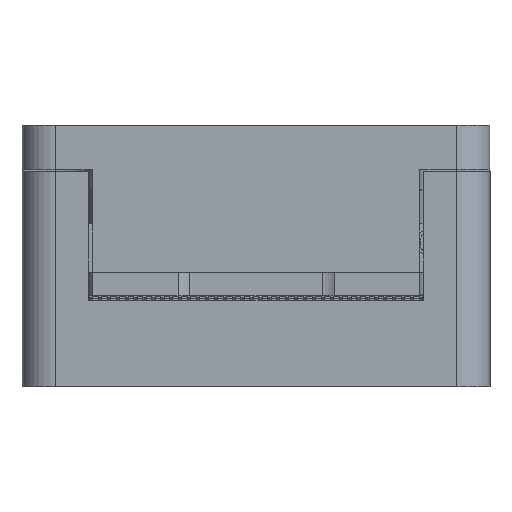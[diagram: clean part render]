
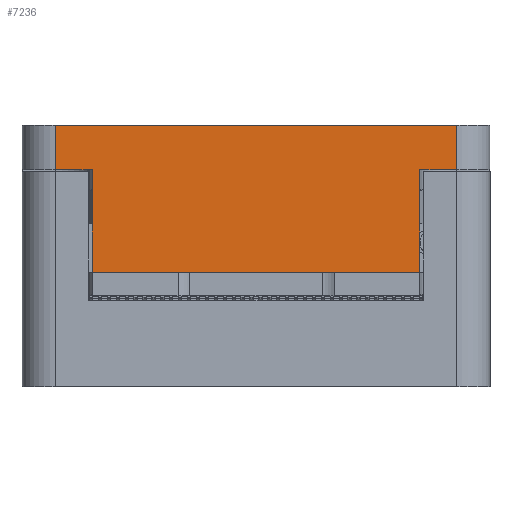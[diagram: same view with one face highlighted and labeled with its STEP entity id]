
A CAD part, front view. The second image highlights one B-rep face of the part: STEP entity #7236.
In plain terms, the highlighted planar face has unit normal (0, -1, 0).
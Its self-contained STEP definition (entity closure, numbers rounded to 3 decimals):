
#2671 = DIRECTION ( 'NONE',  ( 0., 0., -1. ) ) ;
#5273 = DIRECTION ( 'NONE',  ( -1., 0., 0. ) ) ;
#5996 = LINE ( 'NONE', #110215, #29889 ) ;
#7236 = ADVANCED_FACE ( 'NONE', ( #20811 ), #111887, .F. ) ;
#7982 = VERTEX_POINT ( 'NONE', #60119 ) ;
#12662 = ORIENTED_EDGE ( 'NONE', *, *, #56270, .T. ) ;
#13707 = EDGE_CURVE ( 'NONE', #67281, #55425, #63834, .T. ) ;
#14525 = EDGE_CURVE ( 'NONE', #7982, #76871, #103962, .T. ) ;
#16411 = LINE ( 'NONE', #85100, #84750 ) ;
#19650 = LINE ( 'NONE', #56725, #90730 ) ;
#20071 = DIRECTION ( 'NONE',  ( -1., 0., 0. ) ) ;
#20811 = FACE_OUTER_BOUND ( 'NONE', #78731, .T. ) ;
#27631 = CARTESIAN_POINT ( 'NONE',  ( 7.35, -10.5, 3.812 ) ) ;
#29200 = ORIENTED_EDGE ( 'NONE', *, *, #14525, .T. ) ;
#29243 = CARTESIAN_POINT ( 'NONE',  ( -9., -10.5, -0.945 ) ) ;
#29889 = VECTOR ( 'NONE', #83301, 1000. ) ;
#31705 = DIRECTION ( 'NONE',  ( 1., 0., 0. ) ) ;
#34878 = LINE ( 'NONE', #56663, #82276 ) ;
#37228 = ORIENTED_EDGE ( 'NONE', *, *, #96577, .F. ) ;
#38725 = VERTEX_POINT ( 'NONE', #29243 ) ;
#39930 = CARTESIAN_POINT ( 'NONE',  ( 9., -10.5, 1.055 ) ) ;
#40881 = VECTOR ( 'NONE', #114864, 1000. ) ;
#44204 = VERTEX_POINT ( 'NONE', #99631 ) ;
#55425 = VERTEX_POINT ( 'NONE', #103370 ) ;
#56270 = EDGE_CURVE ( 'NONE', #87247, #38725, #19650, .T. ) ;
#56602 = VECTOR ( 'NONE', #84331, 1000. ) ;
#56663 = CARTESIAN_POINT ( 'NONE',  ( -7.35, -10.5, 3.812 ) ) ;
#56725 = CARTESIAN_POINT ( 'NONE',  ( -9., -10.5, 1.055 ) ) ;
#58107 = LINE ( 'NONE', #91342, #102686 ) ;
#58866 = DIRECTION ( 'NONE',  ( 0., 1., 0. ) ) ;
#59967 = ORIENTED_EDGE ( 'NONE', *, *, #83093, .F. ) ;
#60119 = CARTESIAN_POINT ( 'NONE',  ( 9., -10.5, -0.945 ) ) ;
#63291 = CARTESIAN_POINT ( 'NONE',  ( -7.35, -10.5, -5.545 ) ) ;
#63834 = LINE ( 'NONE', #27631, #81917 ) ;
#65648 = DIRECTION ( 'NONE',  ( 0., 0., -1. ) ) ;
#67281 = VERTEX_POINT ( 'NONE', #82000 ) ;
#70493 = CARTESIAN_POINT ( 'NONE',  ( 9., -10.5, 1.055 ) ) ;
#76871 = VERTEX_POINT ( 'NONE', #70493 ) ;
#76957 = ORIENTED_EDGE ( 'NONE', *, *, #81981, .T. ) ;
#78731 = EDGE_LOOP ( 'NONE', ( #89198, #37228, #29200, #59967, #12662, #99222, #89738, #76957 ) ) ;
#81025 = DIRECTION ( 'NONE',  ( 0., 0., -1. ) ) ;
#81917 = VECTOR ( 'NONE', #81025, 1000. ) ;
#81981 = EDGE_CURVE ( 'NONE', #93470, #55425, #16411, .T. ) ;
#82000 = CARTESIAN_POINT ( 'NONE',  ( 7.35, -10.5, -0.945 ) ) ;
#82276 = VECTOR ( 'NONE', #2671, 1000. ) ;
#83093 = EDGE_CURVE ( 'NONE', #87247, #76871, #5996, .T. ) ;
#83301 = DIRECTION ( 'NONE',  ( 1., 0., 0. ) ) ;
#84331 = DIRECTION ( 'NONE',  ( 0., 0., 1. ) ) ;
#84750 = VECTOR ( 'NONE', #31705, 1000. ) ;
#85052 = EDGE_CURVE ( 'NONE', #44204, #38725, #58107, .T. ) ;
#85100 = CARTESIAN_POINT ( 'NONE',  ( 10.5, -10.5, -5.545 ) ) ;
#87247 = VERTEX_POINT ( 'NONE', #110953 ) ;
#89198 = ORIENTED_EDGE ( 'NONE', *, *, #13707, .F. ) ;
#89488 = EDGE_CURVE ( 'NONE', #44204, #93470, #34878, .T. ) ;
#89738 = ORIENTED_EDGE ( 'NONE', *, *, #89488, .T. ) ;
#90730 = VECTOR ( 'NONE', #65648, 1000. ) ;
#91342 = CARTESIAN_POINT ( 'NONE',  ( -7.35, -10.5, -0.945 ) ) ;
#93470 = VERTEX_POINT ( 'NONE', #63291 ) ;
#96577 = EDGE_CURVE ( 'NONE', #7982, #67281, #112043, .T. ) ;
#99222 = ORIENTED_EDGE ( 'NONE', *, *, #85052, .F. ) ;
#99631 = CARTESIAN_POINT ( 'NONE',  ( -7.35, -10.5, -0.945 ) ) ;
#102686 = VECTOR ( 'NONE', #20071, 1000. ) ;
#103370 = CARTESIAN_POINT ( 'NONE',  ( 7.35, -10.5, -5.545 ) ) ;
#103962 = LINE ( 'NONE', #39930, #56602 ) ;
#105899 = CARTESIAN_POINT ( 'NONE',  ( 9., -10.5, -0.945 ) ) ;
#108578 = AXIS2_PLACEMENT_3D ( 'NONE', #112268, #58866, #5273 ) ;
#110215 = CARTESIAN_POINT ( 'NONE',  ( 10.5, -10.5, 1.055 ) ) ;
#110953 = CARTESIAN_POINT ( 'NONE',  ( -9., -10.5, 1.055 ) ) ;
#111887 = PLANE ( 'NONE',  #108578 ) ;
#112043 = LINE ( 'NONE', #105899, #40881 ) ;
#112268 = CARTESIAN_POINT ( 'NONE',  ( 10.5, -10.5, 1.055 ) ) ;
#114864 = DIRECTION ( 'NONE',  ( -1., 0., 0. ) ) ;
